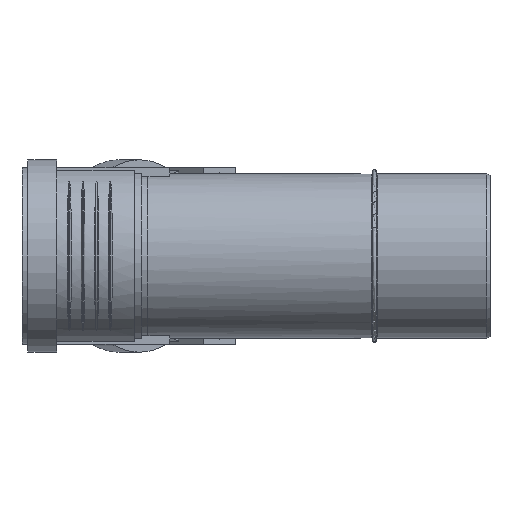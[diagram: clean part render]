
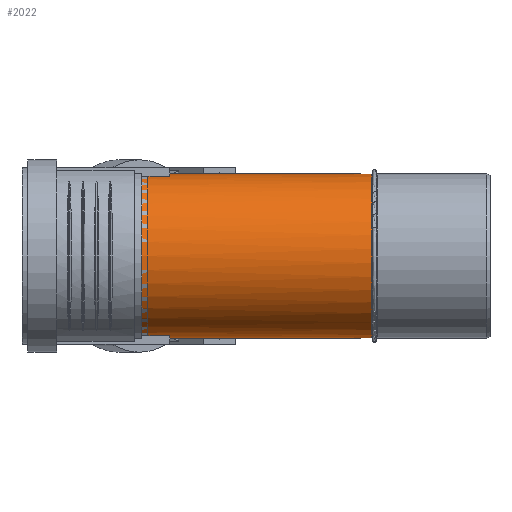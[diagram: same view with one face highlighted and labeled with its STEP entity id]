
A CAD part, left-side view. The second image highlights one B-rep face of the part: STEP entity #2022.
In plain terms, the highlighted cylindrical face has radius 45.1 mm (diameter 90.2 mm), a partial arc.
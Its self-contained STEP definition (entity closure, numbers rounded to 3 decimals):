
#172=ELLIPSE($,#2162,48.816,45.1);
#173=ELLIPSE($,#2163,117.852,45.1);
#174=ELLIPSE($,#2164,117.852,45.1);
#175=ELLIPSE($,#2166,117.852,45.1);
#176=ELLIPSE($,#2167,117.852,45.1);
#177=ELLIPSE($,#2168,48.816,45.1);
#267=CYLINDRICAL_SURFACE($,#2161,45.1);
#599=FACE_OUTER_BOUND($,#717,.T.);
#717=EDGE_LOOP($,(#1477,#1478,#1479,#1480,#1481,#1482,#1483,#1484));
#890=CIRCLE($,#2157,45.1);
#892=CIRCLE($,#2165,45.1);
#988=VERTEX_POINT($,#3035);
#989=VERTEX_POINT($,#3036);
#991=VERTEX_POINT($,#3057);
#992=VERTEX_POINT($,#3059);
#993=VERTEX_POINT($,#3061);
#994=VERTEX_POINT($,#3063);
#995=VERTEX_POINT($,#3065);
#996=VERTEX_POINT($,#3067);
#1195=EDGE_CURVE($,#989,#988,#890,.T.);
#1197=EDGE_CURVE($,#988,#991,#172,.T.);
#1198=EDGE_CURVE($,#991,#992,#173,.T.);
#1199=EDGE_CURVE($,#992,#993,#174,.T.);
#1200=EDGE_CURVE($,#993,#994,#892,.T.);
#1201=EDGE_CURVE($,#994,#995,#175,.T.);
#1202=EDGE_CURVE($,#995,#996,#176,.T.);
#1203=EDGE_CURVE($,#996,#989,#177,.T.);
#1477=ORIENTED_EDGE($,*,*,#1195,.T.);
#1478=ORIENTED_EDGE($,*,*,#1197,.T.);
#1479=ORIENTED_EDGE($,*,*,#1198,.T.);
#1480=ORIENTED_EDGE($,*,*,#1199,.T.);
#1481=ORIENTED_EDGE($,*,*,#1200,.T.);
#1482=ORIENTED_EDGE($,*,*,#1201,.T.);
#1483=ORIENTED_EDGE($,*,*,#1202,.T.);
#1484=ORIENTED_EDGE($,*,*,#1203,.T.);
#2022=ADVANCED_FACE($,(#599),#267,.T.);
#2157=AXIS2_PLACEMENT_3D($,#3051,#2404,#2405);
#2161=AXIS2_PLACEMENT_3D($,#3056,#2412,#2413);
#2162=AXIS2_PLACEMENT_3D($,#3058,#2414,#2415);
#2163=AXIS2_PLACEMENT_3D($,#3060,#2416,#2417);
#2164=AXIS2_PLACEMENT_3D($,#3062,#2418,#2419);
#2165=AXIS2_PLACEMENT_3D($,#3064,#2420,#2421);
#2166=AXIS2_PLACEMENT_3D($,#3066,#2422,#2423);
#2167=AXIS2_PLACEMENT_3D($,#3068,#2424,#2425);
#2168=AXIS2_PLACEMENT_3D($,#3069,#2426,#2427);
#2404=DIRECTION('center_axis',(0.,1.,0.));
#2405=DIRECTION('ref_axis',(1.,0.,0.));
#2412=DIRECTION('center_axis',(0.,1.,0.));
#2413=DIRECTION('ref_axis',(1.,0.,0.));
#2414=DIRECTION('center_axis',(-0.383,-0.924,0.));
#2415=DIRECTION('ref_axis',(0.924,-0.383,0.));
#2416=DIRECTION('center_axis',(-0.924,0.383,0.));
#2417=DIRECTION('ref_axis',(-0.383,-0.924,0.));
#2418=DIRECTION('center_axis',(-0.924,0.383,0.));
#2419=DIRECTION('ref_axis',(-0.383,-0.924,0.));
#2420=DIRECTION('center_axis',(0.,-1.,0.));
#2421=DIRECTION('ref_axis',(1.,0.,0.));
#2422=DIRECTION('center_axis',(-0.924,0.383,0.));
#2423=DIRECTION('ref_axis',(-0.383,-0.924,0.));
#2424=DIRECTION('center_axis',(-0.924,0.383,0.));
#2425=DIRECTION('ref_axis',(-0.383,-0.924,0.));
#2426=DIRECTION('center_axis',(-0.383,-0.924,0.));
#2427=DIRECTION('ref_axis',(0.924,-0.383,0.));
#3035=CARTESIAN_POINT('',(44.663,64.85,6.263));
#3036=CARTESIAN_POINT('',(44.663,64.85,-6.263));
#3051=CARTESIAN_POINT('Origin',(0.,64.85,0.));
#3056=CARTESIAN_POINT('Origin',(0.,0.,0.));
#3057=CARTESIAN_POINT('',(0.,83.35,45.1));
#3058=CARTESIAN_POINT('Origin',(0.,83.35,0.));
#3059=CARTESIAN_POINT('',(45.025,192.05,2.6));
#3060=CARTESIAN_POINT('Origin',(0.,83.35,0.));
#3061=CARTESIAN_POINT('',(45.066,192.15,1.74));
#3062=CARTESIAN_POINT('Origin',(0.,83.35,0.));
#3063=CARTESIAN_POINT('',(45.066,192.15,-1.74));
#3064=CARTESIAN_POINT('Origin',(0.,192.15,0.));
#3065=CARTESIAN_POINT('',(45.025,192.05,-2.6));
#3066=CARTESIAN_POINT('Origin',(0.,83.35,0.));
#3067=CARTESIAN_POINT('',(0.,83.35,-45.1));
#3068=CARTESIAN_POINT('Origin',(0.,83.35,0.));
#3069=CARTESIAN_POINT('Origin',(0.,83.35,0.));
